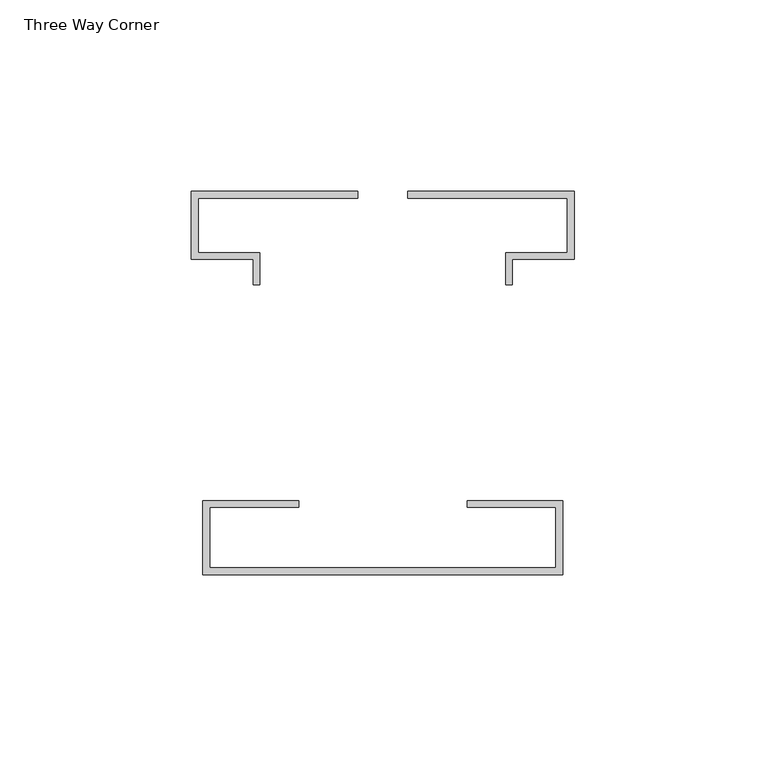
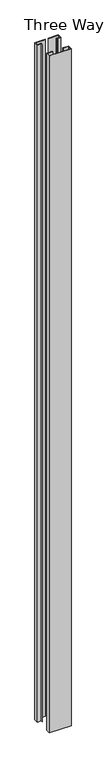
"""IFC4 building model written with IfcOpenShell, lengths in millimetres: proxy geometry, Connection-Corner-Teknion-OptosLP-Three_Way_FZCZ3B : Three Way Corner."""

from ifc_helpers import new_model, si_unit, origin, origin_with_axes, place, context, project, spatial, polyline, outline, extrude, source, transform, mapped, element, save


def three_way_corner_7981b0c4(model_context):
    return source(origin(), model_context, "Body", "SweptSolid", [
        extrude(outline(polyline([(46.99, -30.7627993), (46.99, -50.0667993), (-46.99, -50.0667993), (-46.99, -30.7627993), (-22.0218, -30.7627993), (-22.0218, -32.5407993), (-45.212, -32.5407993), (-45.212, -48.2887993), (45.212, -48.2887993), (45.212, -32.5407993), (22.0218, -32.5407993), (22.0218, -30.7627993), (46.99, -30.7627993)])), origin_with_axes(), (0.0, 0.0, 1.0), 3048.0),
        extrude(outline(polyline([(32.0929976, 25.6347915), (32.0929976, 34.0167915), (48.2219976, 34.0167915), (48.2219976, 48.2407915), (6.5659976, 48.2407915), (6.5659976, 50.0187915), (49.9999976, 50.0187915), (49.9999976, 32.2387915), (33.8709976, 32.2387915), (33.8709976, 25.6347915), (32.0929976, 25.6347915)])), origin_with_axes(), (0.0, 0.0, 1.0), 3048.0),
        extrude(outline(polyline([(-50.0000024, 50.0187915), (-6.5660024, 50.0187915), (-6.5660024, 48.2281242), (-48.2220024, 48.2281242), (-48.2220024, 34.0167915), (-32.0930024, 34.0167915), (-32.0930024, 25.6347915), (-33.8710024, 25.6347915), (-33.8710024, 32.2387915), (-50.0000024, 32.2387915), (-50.0000024, 50.0187915)])), origin_with_axes(), (0.0, 0.0, 1.0), 3048.0),
    ])


if __name__ == "__main__":
    model = new_model("IFC4")
    model_context = context("Model", 3, world=origin())
    ifc_project = project(units=[si_unit("LENGTHUNIT", "METRE", prefix="MILLI")], contexts=[model_context])
    site = spatial("IfcSite", under=ifc_project)
    building = spatial("IfcBuilding", under=site)
    placement = place(None, origin())
    three_way_corner_shape = three_way_corner_7981b0c4(model_context)
    element("IfcBuildingElementProxy", 1, Name="Connection-Corner-Teknion-OptosLP-Three_Way_FZCZ3B : Three Way Corner", ObjectType="Connection-Corner-Teknion-OptosLP-Three_Way_FZCZ3B : Three Way Corner", at=placement, inside=building, context=model_context, shape_type="MappedRepresentation", body=[
        mapped(three_way_corner_shape, transform((0.0, 0.0, 0.0), x_axis=(1.0, 0.0, 0.0), y_axis=(0.0, 1.0, 0.0), z_axis=(0.0, 0.0, 1.0))),
    ])
    save(model, "model.ifc")
